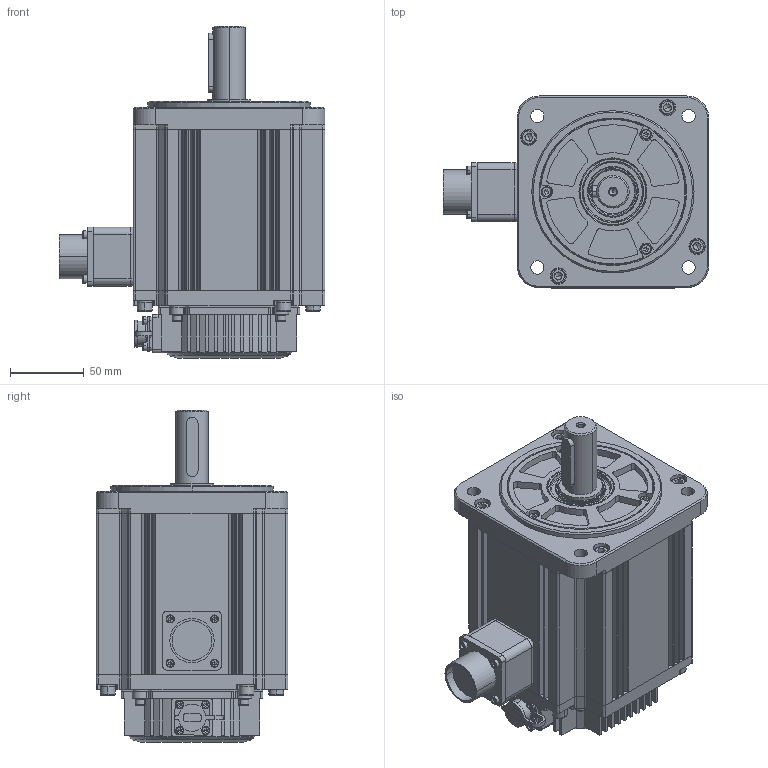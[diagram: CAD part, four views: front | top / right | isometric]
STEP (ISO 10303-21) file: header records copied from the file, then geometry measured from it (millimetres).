
FILE_DESCRIPTION (( 'STEP AP214' ), '1' );
FILE_NAME ('EMG-15(¶þ´ú).STEP', '2020-03-30T10:19:39', ( '' ), ( '' ), 'SwSTEP 2.0', 'SolidWorks 2018', '' );
FILE_SCHEMA (( 'AUTOMOTIVE_DESIGN' ));
Length unit declared in the file: millimetre
Products named in the file (64): hexagon socket head cap screws gb_GB_FASTENER_SCREWS_HSHCS M3X12-NHDA; hexagon socket head cap screws gb; hexagon socket head cap screws gb_GB_FASTENER_SCREWS_HSHCS M6X16-NHDA; wave single coil spring lock washers gb; wave single coil spring lock washers gb_GB_FASTENER_WASHER_WSLW 6; hexagon socket head cap screws gb_GB_FASTENER_SCREWS_HSHCS M4X12-NHDA; wave single coil spring lock washers gb_GB_FASTENER_WASHER_WSLW 4; 12; 11; 10; 5; 9; 8; 7; 6; 4; 3; 1; 2; EMG-15(媼測)
Assembly tree (46 placements, depth 2):
  hexagon socket head cap screws gb
  hexagon socket head cap screws gb
  wave single coil spring lock washers gb
  hexagon socket head cap screws gb
  wave single coil spring lock washers gb
Bounding box: 180.05 x 130 x 225 mm (x, y, z)
Volume: 2136185.5 mm3; surface area: 305169.4 mm2
Topology: 47 solids, 48 shells, 2091 faces, 5463 edges, 3512 vertices
Faces by surface type: plane 1023, cylinder 789, cone 182, torus 68, bspline 19, sphere 10
Entity records: 58884 total; most frequent: CARTESIAN_POINT 12919, ORIENTED_EDGE 8126, DIRECTION 8093, EDGE_CURVE 4063, AXIS2_PLACEMENT_3D 2884, VERTEX_POINT 2698, VECTOR 2325, LINE 2325
